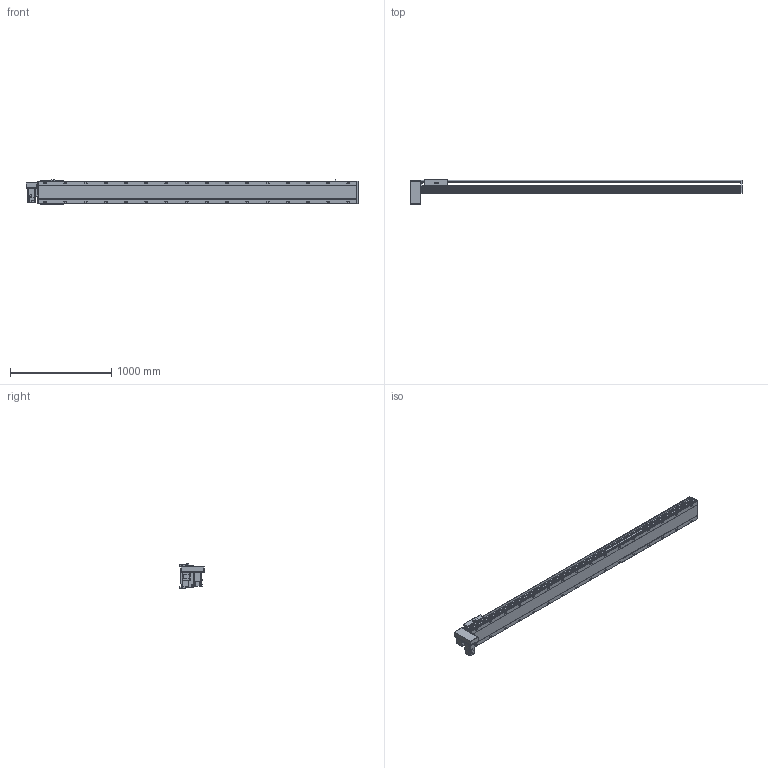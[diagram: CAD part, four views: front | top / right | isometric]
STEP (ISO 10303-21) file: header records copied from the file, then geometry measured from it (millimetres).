
FILE_DESCRIPTION(/* description */ ('STEP AP214'),/* implementation_level */ '2;1');
FILE_NAME(/* name */ 'PBS220-P40-S2800-RD-T75-C1-N(0)',/* time_stamp */ '2022-06-13T02:47:06+02:00',/* author */ ('License CC BY-ND 4.0'),/* organization */ ('CADENAS'),/* preprocessor_version */ 'ST-DEVELOPER v18.102',/* originating_system */ 'PARTsolutions',/* authorisation */ ' ');
FILE_SCHEMA (('AUTOMOTIVE_DESIGN {1 0 10303 214 3 1 1}'));
Length unit declared in the file: millimetre
Products named in the file (7): PBS220-P40-S2800-RD-T75-C1-N(0); PBS220_sensor; PBS220_plant; PBS220_sliser; T75-p1; PBS220T-RD_motors; PBS220-S2800()_body
Assembly tree (8 placements, depth 2):
  PBS220-P40-S2800-RD-T75-C1-N(0)
    PBS220_sensor  x3
    PBS220_plant
    PBS220_sliser
    T75-p1
    PBS220T-RD_motors
    PBS220-S2800()_body
Bounding box: 3284 x 239 x 238.5 mm (x, y, z)
Volume: 45702705.9 mm3; surface area: 4161959.2 mm2
Topology: 8 solids, 8 shells, 1010 faces, 2620 edges, 1702 vertices
Faces by surface type: plane 630, cylinder 324, cone 56
Full cylindrical faces by diameter (mm): 2.013 x4, 4.5 x14, 4.917 x4, 6 x7, 6.647 x8, 8 x10, 8.376 x32, 8.5 x32, 10 x6, 14 x32, 38 x2, 40 x1, 70 x1
Entity records: 28125 total; most frequent: CARTESIAN_POINT 5020, DIRECTION 4887, ORIENTED_EDGE 4394, EDGE_CURVE 2197, AXIS2_PLACEMENT_3D 1763, VERTEX_POINT 1544, LINE 1361, VECTOR 1361
